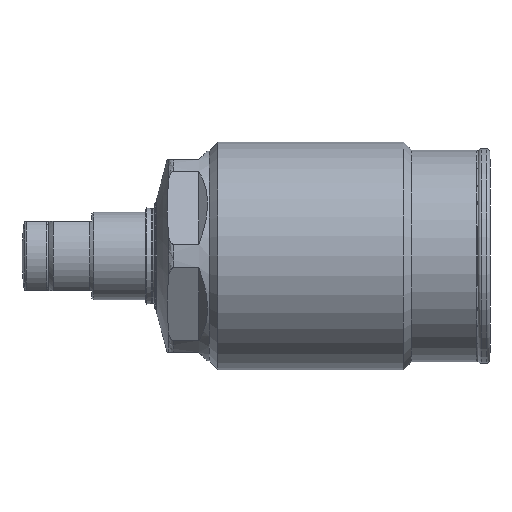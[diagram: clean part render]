
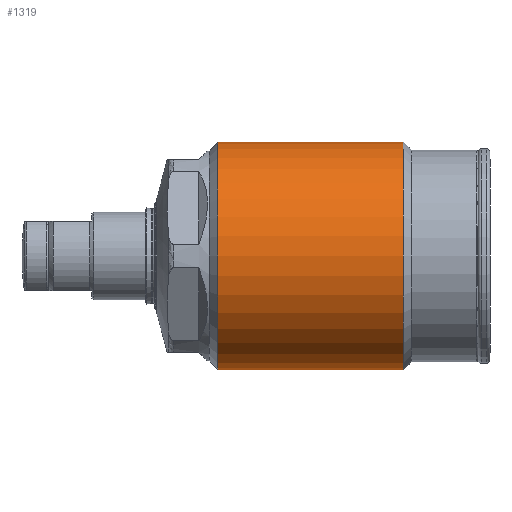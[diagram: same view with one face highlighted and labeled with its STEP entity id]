
A CAD part, left-side view. The second image highlights one B-rep face of the part: STEP entity #1319.
In plain terms, the highlighted cylindrical face has radius 13 mm (diameter 26 mm), a partial arc.
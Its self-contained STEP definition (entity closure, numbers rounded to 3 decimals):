
#969=CYLINDRICAL_SURFACE('',#3697,13.);
#1042=LINE('',#5365,#1144);
#1043=LINE('',#5366,#1145);
#1144=VECTOR('',#4323,1.);
#1145=VECTOR('',#4324,1.);
#1319=ADVANCED_FACE('',(#1543),#969,.T.);
#1543=FACE_OUTER_BOUND('',#1721,.T.);
#1721=EDGE_LOOP('',(#2362,#2363,#2364,#2365));
#2362=ORIENTED_EDGE('',*,*,#2981,.F.);
#2363=ORIENTED_EDGE('',*,*,#3071,.T.);
#2364=ORIENTED_EDGE('',*,*,#2982,.T.);
#2365=ORIENTED_EDGE('',*,*,#3072,.F.);
#2675=VERTEX_POINT('',#5357);
#2676=VERTEX_POINT('',#5359);
#2677=VERTEX_POINT('',#5363);
#2678=VERTEX_POINT('',#5364);
#2981=EDGE_CURVE('',#2678,#2676,#1042,.T.);
#2982=EDGE_CURVE('',#2677,#2675,#1043,.T.);
#3071=EDGE_CURVE('',#2678,#2677,#3323,.T.);
#3072=EDGE_CURVE('',#2676,#2675,#3324,.T.);
#3323=CIRCLE('',#3694,13.);
#3324=CIRCLE('',#3696,13.);
#3694=AXIS2_PLACEMENT_3D('',#5727,#4549,#4550);
#3696=AXIS2_PLACEMENT_3D('',#5729,#4553,#4554);
#3697=AXIS2_PLACEMENT_3D('',#5730,#4555,#4556);
#4323=DIRECTION('',(0.,1.,0.));
#4324=DIRECTION('',(0.,1.,0.));
#4549=DIRECTION('',(0.,1.,0.));
#4550=DIRECTION('',(0.,0.,1.));
#4553=DIRECTION('',(0.,1.,0.));
#4554=DIRECTION('',(0.,0.,1.));
#4555=DIRECTION('',(0.,1.,0.));
#4556=DIRECTION('',(0.,0.,-1.));
#5357=CARTESIAN_POINT('',(0.,34.866,13.));
#5359=CARTESIAN_POINT('',(0.,34.866,-13.));
#5363=CARTESIAN_POINT('',(0.,13.666,13.));
#5364=CARTESIAN_POINT('',(0.,13.666,-13.));
#5365=CARTESIAN_POINT('',(0.,60.264,-13.));
#5366=CARTESIAN_POINT('',(0.,60.264,13.));
#5727=CARTESIAN_POINT('',(0.,13.666,0.));
#5729=CARTESIAN_POINT('',(0.,34.866,0.));
#5730=CARTESIAN_POINT('',(0.,60.264,0.));
